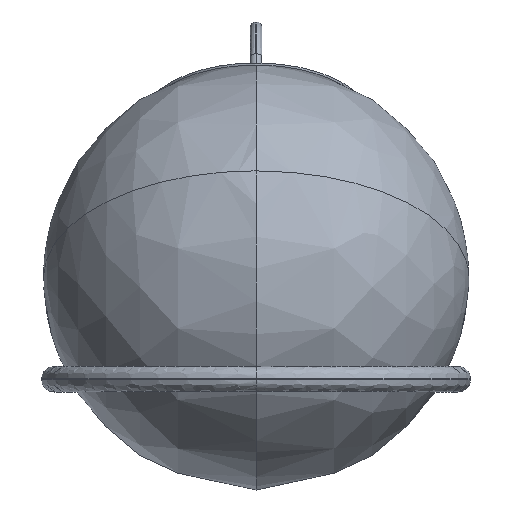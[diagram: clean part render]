
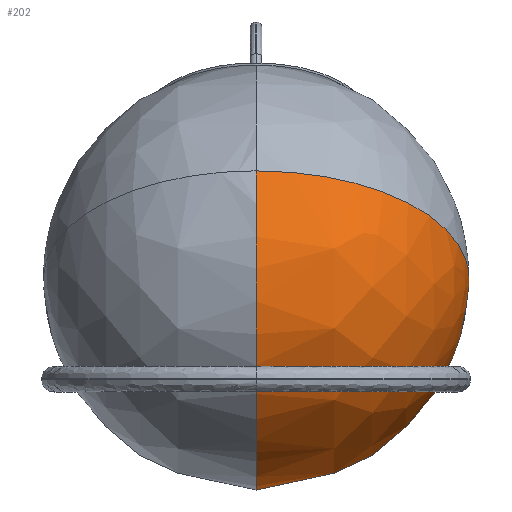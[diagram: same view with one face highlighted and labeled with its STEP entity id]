
A CAD part, top view. The second image highlights one B-rep face of the part: STEP entity #202.
In plain terms, the highlighted free-form (B-spline) face has degree [2, 2] with [5, 5] control points.
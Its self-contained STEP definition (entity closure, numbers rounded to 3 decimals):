
#202=ADVANCED_FACE('',(#328),#1963,.T.);
#328=FACE_OUTER_BOUND('',#472,.T.);
#472=EDGE_LOOP('',(#907,#908,#909,#910));
#907=ORIENTED_EDGE('',*,*,#1304,.T.);
#908=ORIENTED_EDGE('',*,*,#1291,.T.);
#909=ORIENTED_EDGE('',*,*,#1294,.T.);
#910=ORIENTED_EDGE('',*,*,#1303,.F.);
#1291=EDGE_CURVE('',#1814,#1815,#1524,.T.);
#1294=EDGE_CURVE('',#1815,#1812,#1526,.T.);
#1303=EDGE_CURVE('',#1820,#1812,#1534,.T.);
#1304=EDGE_CURVE('',#1820,#1814,#1535,.T.);
#1524=(
BOUNDED_CURVE()
B_SPLINE_CURVE(2,(#5544,#5545,#5546),.UNSPECIFIED.,.F.,.F.)
B_SPLINE_CURVE_WITH_KNOTS((3,3),(0.,157.08),.UNSPECIFIED.)
CURVE()
GEOMETRIC_REPRESENTATION_ITEM()
RATIONAL_B_SPLINE_CURVE((1.,0.707,1.))
REPRESENTATION_ITEM('')
);
#1526=(
BOUNDED_CURVE()
B_SPLINE_CURVE(2,(#5620,#5621,#5622),.UNSPECIFIED.,.F.,.F.)
B_SPLINE_CURVE_WITH_KNOTS((3,3),(157.08,314.159),
 .UNSPECIFIED.)
CURVE()
GEOMETRIC_REPRESENTATION_ITEM()
RATIONAL_B_SPLINE_CURVE((1.,0.707,1.))
REPRESENTATION_ITEM('')
);
#1534=(
BOUNDED_CURVE()
B_SPLINE_CURVE(2,(#5716,#5717,#5718),.UNSPECIFIED.,.F.,.F.)
B_SPLINE_CURVE_WITH_KNOTS((3,3),(157.08,314.159),
 .UNSPECIFIED.)
CURVE()
GEOMETRIC_REPRESENTATION_ITEM()
RATIONAL_B_SPLINE_CURVE((1.,0.707,1.))
REPRESENTATION_ITEM('')
);
#1535=(
BOUNDED_CURVE()
B_SPLINE_CURVE(2,(#5719,#5720,#5721),.UNSPECIFIED.,.F.,.F.)
B_SPLINE_CURVE_WITH_KNOTS((3,3),(-157.08,0.),.UNSPECIFIED.)
CURVE()
GEOMETRIC_REPRESENTATION_ITEM()
RATIONAL_B_SPLINE_CURVE((1.,0.707,1.))
REPRESENTATION_ITEM('')
);
#1812=VERTEX_POINT('',#5505);
#1814=VERTEX_POINT('',#5507);
#1815=VERTEX_POINT('',#5508);
#1820=VERTEX_POINT('',#5513);
#1963=(
BOUNDED_SURFACE()
B_SPLINE_SURFACE(2,2,((#5421,#5422,#5423,#5424,#5425),(#5426,#5427,#5428,
#5429,#5430),(#5431,#5432,#5433,#5434,#5435),(#5436,#5437,#5438,#5439,#5440),
(#5441,#5442,#5443,#5444,#5445)),.UNSPECIFIED.,.F.,.F.,.F.)
B_SPLINE_SURFACE_WITH_KNOTS((3,2,3),(3,2,3),(314.159,471.239,
628.319),(0.,157.08,314.159),.UNSPECIFIED.)
GEOMETRIC_REPRESENTATION_ITEM()
RATIONAL_B_SPLINE_SURFACE(((1.,0.707,1.,0.707,1.),
(0.707,0.5,0.707,0.5,0.707),(1.,0.707,
1.,0.707,1.),(0.707,0.5,0.707,0.5,0.707),
(1.,0.707,1.,0.707,1.)))
REPRESENTATION_ITEM('')
SURFACE()
);
#5421=CARTESIAN_POINT('',(-100.,47.854,192.307));
#5422=CARTESIAN_POINT('',(-100.,97.854,278.909));
#5423=CARTESIAN_POINT('',(0.,97.854,278.909));
#5424=CARTESIAN_POINT('',(100.,97.854,278.909));
#5425=CARTESIAN_POINT('',(100.,47.854,192.307));
#5426=CARTESIAN_POINT('',(-100.,47.854,192.307));
#5427=CARTESIAN_POINT('',(-100.,11.251,328.909));
#5428=CARTESIAN_POINT('',(0.,11.251,328.909));
#5429=CARTESIAN_POINT('',(100.,11.251,328.909));
#5430=CARTESIAN_POINT('',(100.,47.854,192.307));
#5431=CARTESIAN_POINT('',(-100.,47.854,192.307));
#5432=CARTESIAN_POINT('',(-100.,-38.749,242.307));
#5433=CARTESIAN_POINT('',(0.,-38.749,242.307));
#5434=CARTESIAN_POINT('',(100.,-38.749,242.307));
#5435=CARTESIAN_POINT('',(100.,47.854,192.307));
#5436=CARTESIAN_POINT('',(-100.,47.854,192.307));
#5437=CARTESIAN_POINT('',(-100.,-88.749,155.704));
#5438=CARTESIAN_POINT('',(0.,-88.749,155.704));
#5439=CARTESIAN_POINT('',(100.,-88.749,155.704));
#5440=CARTESIAN_POINT('',(100.,47.854,192.307));
#5441=CARTESIAN_POINT('',(-100.,47.854,192.307));
#5442=CARTESIAN_POINT('',(-100.,-2.146,105.704));
#5443=CARTESIAN_POINT('',(0.,-2.146,105.704));
#5444=CARTESIAN_POINT('',(100.,-2.146,105.704));
#5445=CARTESIAN_POINT('',(100.,47.854,192.307));
#5505=CARTESIAN_POINT('',(100.,47.854,192.307));
#5507=CARTESIAN_POINT('',(0.,-38.749,242.307));
#5508=CARTESIAN_POINT('',(0.,-2.146,105.704));
#5513=CARTESIAN_POINT('',(0.,97.854,278.909));
#5544=CARTESIAN_POINT('',(0.,-38.749,242.307));
#5545=CARTESIAN_POINT('',(0.,-88.749,155.704));
#5546=CARTESIAN_POINT('',(0.,-2.146,105.704));
#5620=CARTESIAN_POINT('',(0.,-2.146,105.704));
#5621=CARTESIAN_POINT('',(100.,-2.146,105.704));
#5622=CARTESIAN_POINT('',(100.,47.854,192.307));
#5716=CARTESIAN_POINT('',(0.,97.854,278.909));
#5717=CARTESIAN_POINT('',(100.,97.854,278.909));
#5718=CARTESIAN_POINT('',(100.,47.854,192.307));
#5719=CARTESIAN_POINT('',(0.,97.854,278.909));
#5720=CARTESIAN_POINT('',(0.,11.251,328.909));
#5721=CARTESIAN_POINT('',(0.,-38.749,242.307));
